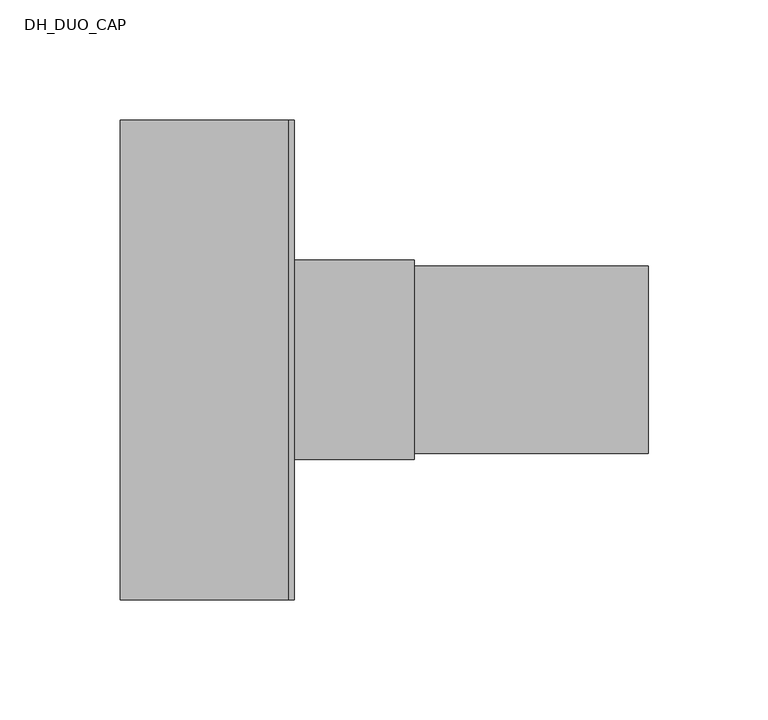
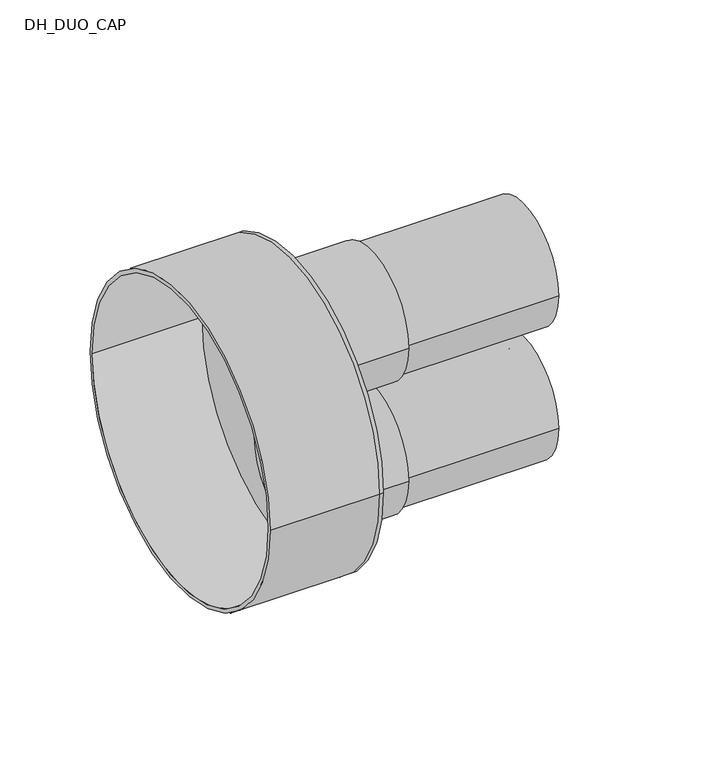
"""IFC4 building model written with IfcOpenShell, lengths in millimetres: pipe fitting geometry, DH_DUO_CAP : INSULPEX DUO + 11 Heating - Rubber Cap."""

from ifc_helpers import new_model, si_unit, point, frame, frame_2d, origin, place, context, project, spatial, polyline, circle_curve, trimmed, segment, composite_curve, outline, extrude, source, transform, mapped, element, save
from ifc_brep_helpers import plane_surface, cylinder_surface, revolved_surface, advanced_brep


def dh_duo_cap_dd34fc89(model_context):
    return source(origin(), model_context, "Body", "SolidModel", [
        extrude(outline(composite_curve([segment(trimmed(circle_curve(frame_2d((0.0, -45.0)), 39.0), [point((-39.0, -45.0))], [point((39.0, -45.0))], False, "CARTESIAN"), True, "CONTINUOUS"), segment(trimmed(circle_curve(frame_2d((0.0, -45.0)), 39.0), [point((39.0, -45.0))], [point((-39.0, -45.0))], False, "CARTESIAN"), True, "CONTINUOUS")], self_intersect=False), holes=[composite_curve([segment(trimmed(circle_curve(frame_2d((0.0, -45.0)), 26.0), [point((-26.0, -45.0))], [point((26.0, -45.0))], True, "CARTESIAN"), True, "CONTINUOUS"), segment(trimmed(circle_curve(frame_2d((0.0, -45.0)), 26.0), [point((26.0, -45.0))], [point((-26.0, -45.0))], True, "CARTESIAN"), True, "CONTINUOUS")], self_intersect=False)]), frame((0.0, 0.0, 0.0), z_axis=(1.0, 0.0, 0.0), x_axis=(0.0, 1.0, 0.0)), (0.0, 0.0, 1.0), 150.0),
        extrude(outline(composite_curve([segment(trimmed(circle_curve(frame_2d((0.0, 45.0)), 39.0), [point((-39.0, 45.0))], [point((39.0, 45.0))], False, "CARTESIAN"), True, "CONTINUOUS"), segment(trimmed(circle_curve(frame_2d((0.0, 45.0)), 39.0), [point((39.0, 45.0))], [point((-39.0, 45.0))], False, "CARTESIAN"), True, "CONTINUOUS")], self_intersect=False), holes=[composite_curve([segment(trimmed(circle_curve(frame_2d((0.0, 45.0)), 26.0), [point((-26.0, 45.0))], [point((26.0, 45.0))], True, "CARTESIAN"), True, "CONTINUOUS"), segment(trimmed(circle_curve(frame_2d((0.0, 45.0)), 26.0), [point((26.0, 45.0))], [point((-26.0, 45.0))], True, "CARTESIAN"), True, "CONTINUOUS")], self_intersect=False)]), frame((0.0, 0.0, 0.0), z_axis=(1.0, 0.0, 0.0), x_axis=(0.0, 1.0, 0.0)), (0.0, 0.0, 1.0), 150.0),
        advanced_brep(
        [(-70.0, -100.0, 0.0), (-70.0, 100.0, 0.0), (-70.0, -97.5, 0.0), (-70.0, 97.5, 0.0), (0.0, -97.5, 0.0), (0.0, 97.5, 0.0), (0.0, -100.0, 0.0), (0.0, 100.0, 0.0), (0.0, 39.0, 45.0), (0.0, -39.0, 45.0), (0.0, 39.0, -45.0), (0.0, -39.0, -45.0), (2.5, -100.0, 0.0), (2.5, 100.0, 0.0), (2.5, -39.0, 45.0), (2.5, 39.0, 45.0), (2.5, -39.0, -45.0), (2.5, 39.0, -45.0)],
        [
            (0, 1, circle_curve(frame((-70.0, 0.0, 0.0), z_axis=(-1.0, 0.0, 0.0), x_axis=(0.0, 1.0, 0.0)), 100.0)),
            (1, 0, circle_curve(frame((-70.0, 0.0, 0.0), z_axis=(-1.0, 0.0, 0.0), x_axis=(0.0, 1.0, 0.0)), 100.0)),
            (2, 3, circle_curve(frame((-70.0, 0.0, 0.0), z_axis=(1.0, 0.0, 0.0), x_axis=(0.0, 1.0, 0.0)), 97.5)),
            (3, 2, circle_curve(frame((-70.0, 0.0, 0.0), z_axis=(1.0, 0.0, 0.0), x_axis=(0.0, 1.0, 0.0)), 97.5)),
            (2, 4),
            (4, 5, circle_curve(frame((0.0, 0.0, 0.0), z_axis=(1.0, 0.0, 0.0), x_axis=(0.0, 1.0, 0.0)), 97.5)),
            (5, 3),
            (5, 4, circle_curve(frame((0.0, 0.0, 0.0), z_axis=(1.0, 0.0, 0.0), x_axis=(0.0, 1.0, 0.0)), 97.5)),
            (0, 6),
            (6, 7, circle_curve(frame((0.0, 0.0, 0.0), z_axis=(-1.0, 0.0, 0.0), x_axis=(0.0, 1.0, 0.0)), 100.0)),
            (7, 1),
            (7, 6, circle_curve(frame((0.0, 0.0, 0.0), z_axis=(-1.0, 0.0, 0.0), x_axis=(0.0, 1.0, 0.0)), 100.0)),
            (8, 9, circle_curve(frame((0.0, 0.0, 45.0), z_axis=(1.0, 0.0, 0.0), x_axis=(0.0, 1.0, 0.0)), 39.0)),
            (9, 8, circle_curve(frame((0.0, 0.0, 45.0), z_axis=(1.0, 0.0, 0.0), x_axis=(0.0, 1.0, 0.0)), 39.0)),
            (10, 11, circle_curve(frame((0.0, 0.0, -45.0), z_axis=(1.0, 0.0, 0.0), x_axis=(0.0, 1.0, 0.0)), 39.0)),
            (11, 10, circle_curve(frame((0.0, 0.0, -45.0), z_axis=(1.0, 0.0, 0.0), x_axis=(0.0, 1.0, 0.0)), 39.0)),
            (12, 13, circle_curve(frame((2.5, 0.0, 0.0), z_axis=(1.0, 0.0, 0.0), x_axis=(0.0, 1.0, 0.0)), 100.0)),
            (13, 12, circle_curve(frame((2.5, 0.0, 0.0), z_axis=(1.0, 0.0, 0.0), x_axis=(0.0, 1.0, 0.0)), 100.0)),
            (14, 15, circle_curve(frame((2.5, 0.0, 45.0), z_axis=(-1.0, 0.0, 0.0), x_axis=(0.0, 1.0, 0.0)), 39.0)),
            (15, 14, circle_curve(frame((2.5, 0.0, 45.0), z_axis=(-1.0, 0.0, 0.0), x_axis=(0.0, 1.0, 0.0)), 39.0)),
            (16, 17, circle_curve(frame((2.5, 0.0, -45.0), z_axis=(-1.0, 0.0, 0.0), x_axis=(0.0, 1.0, 0.0)), 39.0)),
            (17, 16, circle_curve(frame((2.5, 0.0, -45.0), z_axis=(-1.0, 0.0, 0.0), x_axis=(0.0, 1.0, 0.0)), 39.0)),
            (13, 7),
            (6, 12),
            (8, 15),
            (14, 9),
            (10, 17),
            (16, 11),
        ],
        [
            plane_surface(frame((-70.0, 0.0, 0.0), z_axis=(-1.0, 0.0, 0.0), x_axis=(0.0, 0.0, 1.0))),
            revolved_surface(polyline([(0.0, 97.5, 0.0), (-70.0, 97.5, 0.0)]), (-70.0, 0.0, 0.0), (1.0, 0.0, 0.0)),
            cylinder_surface(frame((-70.0, 0.0, 0.0), z_axis=(-1.0, 0.0, 0.0), x_axis=(0.0, 1.0, 0.0)), 100.0),
            plane_surface(frame((0.0, 0.0, 0.0), z_axis=(-1.0, 0.0, 0.0), x_axis=(0.0, 0.0, 1.0))),
            plane_surface(frame((2.5, 0.0, 0.0), z_axis=(1.0, 0.0, 0.0), x_axis=(0.0, 0.0, 1.0))),
            cylinder_surface(frame((0.0, 0.0, 0.0), z_axis=(-1.0, 0.0, 0.0), x_axis=(0.0, 1.0, 0.0)), 100.0),
            revolved_surface(polyline([(0.0, 39.0, 45.0), (2.5, 39.0, 45.0)]), (0.0, 0.0, 45.0), (-1.0, 0.0, 0.0)),
            revolved_surface(polyline([(0.0, 39.0, -45.0), (2.5, 39.0, -45.0)]), (0.0, 0.0, -45.0), (-1.0, 0.0, 0.0)),
        ],
        [
            (0, [[1, 2], [3, 4]]),
            (1, [[-3, 5, 6, 7]]),
            (1, [[-4, -7, 8, -5]]),
            (2, [[-1, 9, 10, 11]]),
            (2, [[-2, -11, 12, -9]]),
            (3, [[-6, -8], [13, 14], [15, 16]]),
            (4, [[17, 18], [19, 20], [21, 22]]),
            (5, [[-18, 23, -10, 24]]),
            (5, [[-17, -24, -12, -23]]),
            (6, [[25, -19, 26, -13]]),
            (6, [[-25, -14, -26, -20]]),
            (7, [[27, -21, 28, -15]]),
            (7, [[-27, -16, -28, -22]]),
        ],
    ),
        extrude(outline(composite_curve([segment(trimmed(circle_curve(frame_2d((0.0, -45.0)), 41.5), [point((-41.5, -45.0))], [point((41.5, -45.0))], False, "CARTESIAN"), True, "CONTINUOUS"), segment(trimmed(circle_curve(frame_2d((0.0, -45.0)), 41.5), [point((41.5, -45.0))], [point((-41.5, -45.0))], False, "CARTESIAN"), True, "CONTINUOUS")], self_intersect=False), holes=[composite_curve([segment(trimmed(circle_curve(frame_2d((0.0, -45.0)), 39.0), [point((-39.0, -45.0))], [point((39.0, -45.0))], True, "CARTESIAN"), True, "CONTINUOUS"), segment(trimmed(circle_curve(frame_2d((0.0, -45.0)), 39.0), [point((39.0, -45.0))], [point((-39.0, -45.0))], True, "CARTESIAN"), True, "CONTINUOUS")], self_intersect=False)]), frame((2.5, 0.0, 0.0), z_axis=(1.0, 0.0, 0.0), x_axis=(0.0, 1.0, 0.0)), (0.0, 0.0, 1.0), 50.0),
        extrude(outline(composite_curve([segment(trimmed(circle_curve(frame_2d((0.0, 45.0)), 41.5), [point((-41.5, 45.0))], [point((41.5, 45.0))], False, "CARTESIAN"), True, "CONTINUOUS"), segment(trimmed(circle_curve(frame_2d((0.0, 45.0)), 41.5), [point((41.5, 45.0))], [point((-41.5, 45.0))], False, "CARTESIAN"), True, "CONTINUOUS")], self_intersect=False), holes=[composite_curve([segment(trimmed(circle_curve(frame_2d((0.0, 45.0)), 39.0), [point((-39.0, 45.0))], [point((39.0, 45.0))], True, "CARTESIAN"), True, "CONTINUOUS"), segment(trimmed(circle_curve(frame_2d((0.0, 45.0)), 39.0), [point((39.0, 45.0))], [point((-39.0, 45.0))], True, "CARTESIAN"), True, "CONTINUOUS")], self_intersect=False)]), frame((2.5, 0.0, 0.0), z_axis=(1.0, 0.0, 0.0), x_axis=(0.0, 1.0, 0.0)), (0.0, 0.0, 1.0), 50.0),
    ])


if __name__ == "__main__":
    model = new_model("IFC4")
    model_context = context("Model", 3, world=origin())
    ifc_project = project(units=[si_unit("LENGTHUNIT", "METRE", prefix="MILLI")], contexts=[model_context])
    site = spatial("IfcSite", under=ifc_project)
    building = spatial("IfcBuilding", under=site)
    placement = place(None, origin())
    dh_duo_cap_shape = dh_duo_cap_dd34fc89(model_context)
    element("IfcPipeFitting", 1, ObjectType="DH_DUO_CAP : INSULPEX DUO + 11 Heating - Rubber Cap", at=placement, inside=building, context=model_context, shape_type="MappedRepresentation", body=[
        mapped(dh_duo_cap_shape, transform((0.0, 0.0, 0.0), x_axis=(1.0, 0.0, 0.0), y_axis=(0.0, 1.0, 0.0), z_axis=(0.0, 0.0, 1.0))),
    ])
    save(model, "model.ifc")
